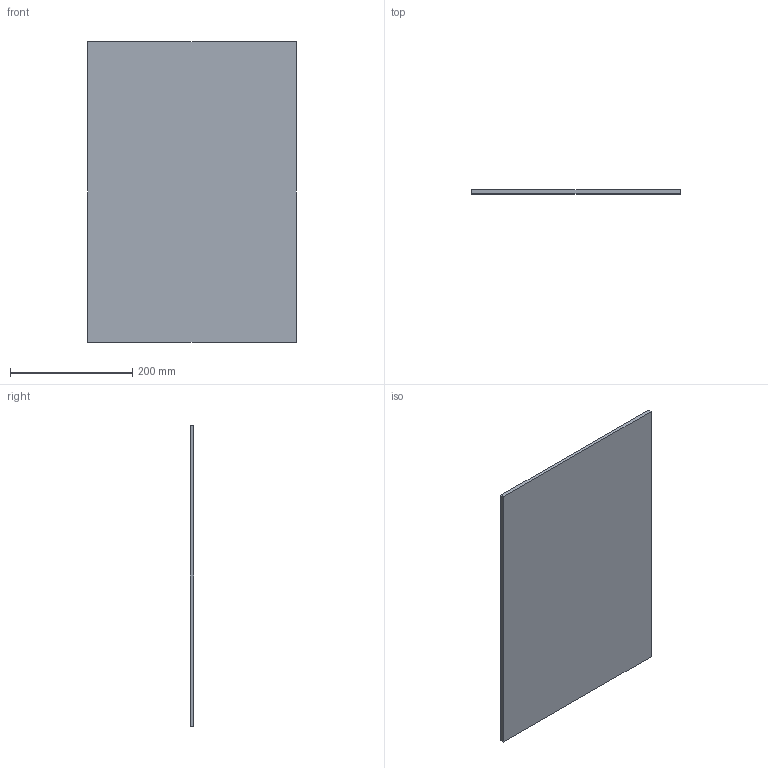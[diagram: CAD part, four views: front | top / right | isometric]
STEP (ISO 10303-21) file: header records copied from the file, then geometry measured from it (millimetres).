
FILE_DESCRIPTION (( 'STEP AP214' ), '1' );
FILE_NAME ('HTIS_3550-6.STEP', '2015-11-10T23:55:59', ( '' ), ( '' ), 'SwSTEP 2.0', 'SolidWorks 2014', '' );
FILE_SCHEMA (( 'AUTOMOTIVE_DESIGN' ));
Length unit declared in the file: millimetre
Products named in the file (1): HTIS_3550-6
Bounding box: 342 x 6 x 492 mm (x, y, z)
Volume: 1009584 mm3; surface area: 346536 mm2
Topology: 1 solids, 1 shells, 6 faces, 12 edges, 8 vertices
Faces by surface type: plane 6
Entity records: 190 total; most frequent: CARTESIAN_POINT 27, DIRECTION 26, ORIENTED_EDGE 24, LINE 12, EDGE_CURVE 12, VECTOR 12, VERTEX_POINT 8, AXIS2_PLACEMENT_3D 7
